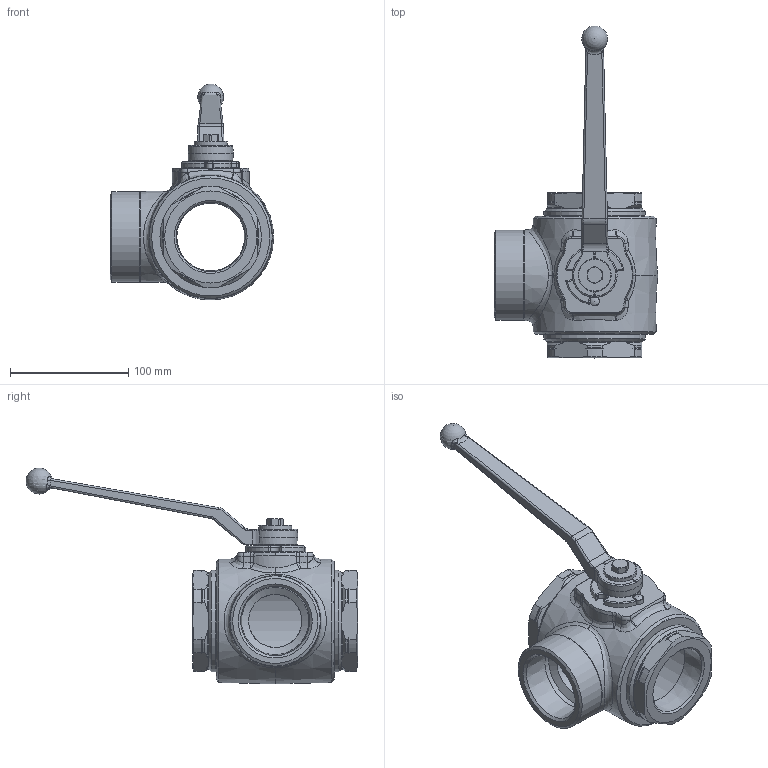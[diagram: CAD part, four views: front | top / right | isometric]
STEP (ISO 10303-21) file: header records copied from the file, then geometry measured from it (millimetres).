
FILE_DESCRIPTION( ( 'Unknown' ), '1' );
FILE_NAME( 'H:/PISTER/3D-MODELLE/SK3 stp/SK3 DN50 2 NPT.stp', 'Unknown', ( 'Unknown' ), ( 'Unknown' ), 'PSStep 14.0', 'Unknown', ' ' );
FILE_SCHEMA( ( 'AUTOMOTIVE_DESIGN { 1 0 10303 214 1 1 1 1 }' ) );
Length unit declared in the file: millimetre
Products named in the file (10): Assem1; 06-050-003-oa9; 09-17-001; 58-28740-01-oa10; Griff_SW17_; 58-0440-003; 58-0933-163; 04-050-075-oa11; 04-050-075-oa12; 01-050-045-oa13
Assembly tree (9 placements, depth 2):
  Assem1
    06-050-003-oa9
    09-17-001
    58-28740-01-oa10
    Griff_SW17_
    58-0440-003
    58-0933-163
    04-050-075-oa11
    04-050-075-oa12
    01-050-045-oa13
Bounding box: 138.35 x 280.92 x 182.85 mm (x, y, z)
Volume: 351540.8 mm3; surface area: 145301.2 mm2
Topology: 9 solids, 9 shells, 436 faces, 1102 edges, 680 vertices
Faces by surface type: cylinder 146, plane 119, cone 72, bspline 47, torus 36, sphere 16
Full cylindrical faces by diameter (mm): 6.8 x1, 7.98 x1, 8 x1, 9.2 x1, 24 x2, 28 x1, 32 x1, 45 x1, 57.219 x1, 62 x1, 76.5 x1, 80.3 x2, 80.35 x2, 86 x2, 100 x1
Entity records: 21023 total; most frequent: CARTESIAN_POINT 7593, DIRECTION 2046, ORIENTED_EDGE 2014, EDGE_CURVE 1007, AXIS2_PLACEMENT_3D 852, VERTEX_POINT 651, EDGE_LOOP 515, FACE_OUTER_BOUND 466
